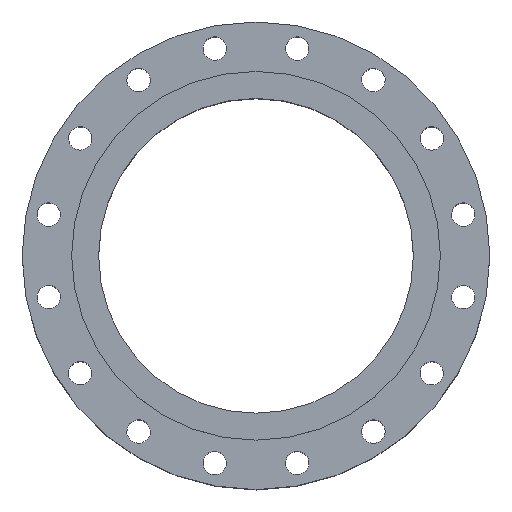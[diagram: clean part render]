
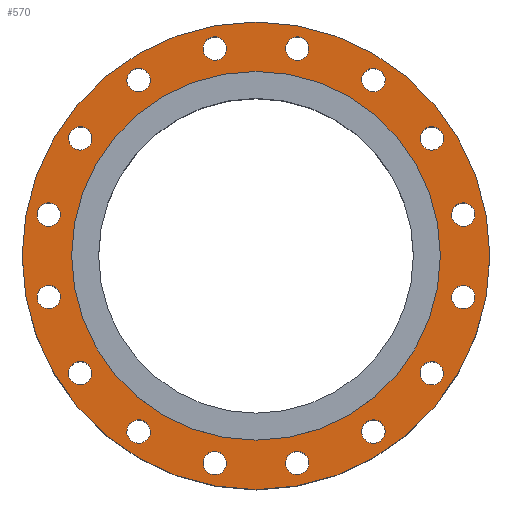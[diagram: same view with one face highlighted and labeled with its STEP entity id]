
A CAD part, top view. The second image highlights one B-rep face of the part: STEP entity #570.
In plain terms, the highlighted planar face has unit normal (0, 0, 1).
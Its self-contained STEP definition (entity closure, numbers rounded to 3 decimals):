
#570=ADVANCED_FACE('',(#1227,#1229,#1231,#1233,#1235,#1237,#1239,#1241,#1243,#1245,
#1247,#1249,#1251,#1253,#1255,#1257,#1259,#1261),#1263,.T.);
#1227=FACE_BOUND('',#1228,.T.);
#1228=EDGE_LOOP('',(#1588));
#1229=FACE_BOUND('',#1230,.T.);
#1230=EDGE_LOOP('',(#1589));
#1231=FACE_BOUND('',#1232,.T.);
#1232=EDGE_LOOP('',(#1590));
#1233=FACE_BOUND('',#1234,.T.);
#1234=EDGE_LOOP('',(#1591));
#1235=FACE_BOUND('',#1236,.T.);
#1236=EDGE_LOOP('',(#1592));
#1237=FACE_BOUND('',#1238,.T.);
#1238=EDGE_LOOP('',(#1593));
#1239=FACE_BOUND('',#1240,.T.);
#1240=EDGE_LOOP('',(#1594));
#1241=FACE_BOUND('',#1242,.T.);
#1242=EDGE_LOOP('',(#1595));
#1243=FACE_BOUND('',#1244,.T.);
#1244=EDGE_LOOP('',(#1596));
#1245=FACE_BOUND('',#1246,.T.);
#1246=EDGE_LOOP('',(#1597));
#1247=FACE_BOUND('',#1248,.T.);
#1248=EDGE_LOOP('',(#1598));
#1249=FACE_BOUND('',#1250,.T.);
#1250=EDGE_LOOP('',(#1599));
#1251=FACE_BOUND('',#1252,.T.);
#1252=EDGE_LOOP('',(#1600));
#1253=FACE_BOUND('',#1254,.T.);
#1254=EDGE_LOOP('',(#1601));
#1255=FACE_BOUND('',#1256,.T.);
#1256=EDGE_LOOP('',(#1602));
#1257=FACE_BOUND('',#1258,.T.);
#1258=EDGE_LOOP('',(#1603));
#1259=FACE_BOUND('',#1260,.T.);
#1260=EDGE_LOOP('',(#1604));
#1261=FACE_BOUND('',#1262,.T.);
#1262=EDGE_LOOP('',(#1605));
#1263=PLANE('',#1264);
#1264=AXIS2_PLACEMENT_3D('',#1265,#1266,#1267);
#1265=CARTESIAN_POINT('',(0.,0.,117.5));
#1266=DIRECTION('',(0.,0.,1.));
#1267=DIRECTION('',(0.,1.,0.));
#1588=ORIENTED_EDGE('',*,*,#1724,.F.);
#1589=ORIENTED_EDGE('',*,*,#1725,.T.);
#1590=ORIENTED_EDGE('',*,*,#1726,.T.);
#1591=ORIENTED_EDGE('',*,*,#1727,.T.);
#1592=ORIENTED_EDGE('',*,*,#1728,.T.);
#1593=ORIENTED_EDGE('',*,*,#1729,.T.);
#1594=ORIENTED_EDGE('',*,*,#1730,.T.);
#1595=ORIENTED_EDGE('',*,*,#1731,.T.);
#1596=ORIENTED_EDGE('',*,*,#1732,.T.);
#1597=ORIENTED_EDGE('',*,*,#1733,.T.);
#1598=ORIENTED_EDGE('',*,*,#1734,.T.);
#1599=ORIENTED_EDGE('',*,*,#1735,.T.);
#1600=ORIENTED_EDGE('',*,*,#1736,.T.);
#1601=ORIENTED_EDGE('',*,*,#1737,.T.);
#1602=ORIENTED_EDGE('',*,*,#1738,.T.);
#1603=ORIENTED_EDGE('',*,*,#1739,.T.);
#1604=ORIENTED_EDGE('',*,*,#1758,.T.);
#1605=ORIENTED_EDGE('',*,*,#1740,.T.);
#1724=EDGE_CURVE('',#1918,#1918,#1919,.T.);
#1725=EDGE_CURVE('',#1920,#1920,#1921,.T.);
#1726=EDGE_CURVE('',#1922,#1922,#1923,.T.);
#1727=EDGE_CURVE('',#1924,#1924,#1925,.T.);
#1728=EDGE_CURVE('',#1926,#1926,#1927,.T.);
#1729=EDGE_CURVE('',#1928,#1928,#1929,.T.);
#1730=EDGE_CURVE('',#1930,#1930,#1931,.T.);
#1731=EDGE_CURVE('',#1932,#1932,#1933,.T.);
#1732=EDGE_CURVE('',#1934,#1934,#1935,.T.);
#1733=EDGE_CURVE('',#1936,#1936,#1937,.T.);
#1734=EDGE_CURVE('',#1938,#1938,#1939,.T.);
#1735=EDGE_CURVE('',#1940,#1940,#1941,.T.);
#1736=EDGE_CURVE('',#1942,#1942,#1943,.T.);
#1737=EDGE_CURVE('',#1944,#1944,#1945,.T.);
#1738=EDGE_CURVE('',#1946,#1946,#1947,.T.);
#1739=EDGE_CURVE('',#1948,#1948,#1949,.T.);
#1740=EDGE_CURVE('',#1950,#1950,#1951,.T.);
#1758=EDGE_CURVE('',#1986,#1986,#1987,.T.);
#1918=VERTEX_POINT('',#3349);
#1919=CIRCLE('',#3350,260.);
#1920=VERTEX_POINT('',#3354);
#1921=CIRCLE('',#3355,13.);
#1922=VERTEX_POINT('',#3359);
#1923=CIRCLE('',#3360,13.);
#1924=VERTEX_POINT('',#3364);
#1925=CIRCLE('',#3365,13.);
#1926=VERTEX_POINT('',#3369);
#1927=CIRCLE('',#3370,13.);
#1928=VERTEX_POINT('',#3374);
#1929=CIRCLE('',#3375,13.);
#1930=VERTEX_POINT('',#3379);
#1931=CIRCLE('',#3380,13.);
#1932=VERTEX_POINT('',#3384);
#1933=CIRCLE('',#3385,13.);
#1934=VERTEX_POINT('',#3389);
#1935=CIRCLE('',#3390,13.);
#1936=VERTEX_POINT('',#3394);
#1937=CIRCLE('',#3395,13.);
#1938=VERTEX_POINT('',#3399);
#1939=CIRCLE('',#3400,13.);
#1940=VERTEX_POINT('',#3404);
#1941=CIRCLE('',#3405,13.);
#1942=VERTEX_POINT('',#3409);
#1943=CIRCLE('',#3410,13.);
#1944=VERTEX_POINT('',#3414);
#1945=CIRCLE('',#3415,13.);
#1946=VERTEX_POINT('',#3419);
#1947=CIRCLE('',#3420,13.);
#1948=VERTEX_POINT('',#3424);
#1949=CIRCLE('',#3425,13.);
#1950=VERTEX_POINT('',#3429);
#1951=CIRCLE('',#3430,13.);
#1986=VERTEX_POINT('',#3519);
#1987=CIRCLE('',#3520,205.);
#3349=CARTESIAN_POINT('',(0.,260.,117.5));
#3350=AXIS2_PLACEMENT_3D('',#3351,#3352,#3353);
#3351=CARTESIAN_POINT('',(0.,0.,117.5));
#3352=DIRECTION('',(0.,0.,-1.));
#3353=DIRECTION('',(0.,1.,0.));
#3354=CARTESIAN_POINT('',(118.549,200.37,117.5));
#3355=AXIS2_PLACEMENT_3D('',#3356,#3357,#3358);
#3356=CARTESIAN_POINT('',(130.559,195.395,117.5));
#3357=DIRECTION('',(0.,0.,-1.));
#3358=DIRECTION('',(-0.924,0.383,0.));
#3359=CARTESIAN_POINT('',(186.203,139.751,117.5));
#3360=AXIS2_PLACEMENT_3D('',#3361,#3362,#3363);
#3361=CARTESIAN_POINT('',(195.395,130.559,117.5));
#3362=DIRECTION('',(0.,0.,-1.));
#3363=DIRECTION('',(-0.707,0.707,0.));
#3364=CARTESIAN_POINT('',(225.51,57.857,117.5));
#3365=AXIS2_PLACEMENT_3D('',#3366,#3367,#3368);
#3366=CARTESIAN_POINT('',(230.485,45.846,117.5));
#3367=DIRECTION('',(0.,0.,-1.));
#3368=DIRECTION('',(-0.383,0.924,0.));
#3369=CARTESIAN_POINT('',(230.485,-32.846,117.5));
#3370=AXIS2_PLACEMENT_3D('',#3371,#3372,#3373);
#3371=CARTESIAN_POINT('',(230.485,-45.846,117.5));
#3372=DIRECTION('',(0.,0.,-1.));
#3373=DIRECTION('',(0.,1.,0.));
#3374=CARTESIAN_POINT('',(200.37,-118.549,117.5));
#3375=AXIS2_PLACEMENT_3D('',#3376,#3377,#3378);
#3376=CARTESIAN_POINT('',(195.395,-130.559,117.5));
#3377=DIRECTION('',(0.,0.,-1.));
#3378=DIRECTION('',(0.383,0.924,0.));
#3379=CARTESIAN_POINT('',(139.751,-186.203,117.5));
#3380=AXIS2_PLACEMENT_3D('',#3381,#3382,#3383);
#3381=CARTESIAN_POINT('',(130.559,-195.395,117.5));
#3382=DIRECTION('',(0.,0.,-1.));
#3383=DIRECTION('',(0.707,0.707,0.));
#3384=CARTESIAN_POINT('',(57.857,-225.51,117.5));
#3385=AXIS2_PLACEMENT_3D('',#3386,#3387,#3388);
#3386=CARTESIAN_POINT('',(45.846,-230.485,117.5));
#3387=DIRECTION('',(0.,0.,-1.));
#3388=DIRECTION('',(0.924,0.383,0.));
#3389=CARTESIAN_POINT('',(-32.846,-230.485,117.5));
#3390=AXIS2_PLACEMENT_3D('',#3391,#3392,#3393);
#3391=CARTESIAN_POINT('',(-45.846,-230.485,117.5));
#3392=DIRECTION('',(0.,0.,-1.));
#3393=DIRECTION('',(1.,0.,0.));
#3394=CARTESIAN_POINT('',(-118.549,-200.37,117.5));
#3395=AXIS2_PLACEMENT_3D('',#3396,#3397,#3398);
#3396=CARTESIAN_POINT('',(-130.559,-195.395,117.5));
#3397=DIRECTION('',(0.,0.,-1.));
#3398=DIRECTION('',(0.924,-0.383,0.));
#3399=CARTESIAN_POINT('',(-186.203,-139.751,117.5));
#3400=AXIS2_PLACEMENT_3D('',#3401,#3402,#3403);
#3401=CARTESIAN_POINT('',(-195.395,-130.559,117.5));
#3402=DIRECTION('',(0.,0.,-1.));
#3403=DIRECTION('',(0.707,-0.707,0.));
#3404=CARTESIAN_POINT('',(-225.51,-57.857,117.5));
#3405=AXIS2_PLACEMENT_3D('',#3406,#3407,#3408);
#3406=CARTESIAN_POINT('',(-230.485,-45.846,117.5));
#3407=DIRECTION('',(0.,0.,-1.));
#3408=DIRECTION('',(0.383,-0.924,0.));
#3409=CARTESIAN_POINT('',(-230.485,32.846,117.5));
#3410=AXIS2_PLACEMENT_3D('',#3411,#3412,#3413);
#3411=CARTESIAN_POINT('',(-230.485,45.846,117.5));
#3412=DIRECTION('',(0.,0.,-1.));
#3413=DIRECTION('',(0.,-1.,0.));
#3414=CARTESIAN_POINT('',(-200.37,118.549,117.5));
#3415=AXIS2_PLACEMENT_3D('',#3416,#3417,#3418);
#3416=CARTESIAN_POINT('',(-195.395,130.559,117.5));
#3417=DIRECTION('',(0.,0.,-1.));
#3418=DIRECTION('',(-0.383,-0.924,0.));
#3419=CARTESIAN_POINT('',(-139.751,186.203,117.5));
#3420=AXIS2_PLACEMENT_3D('',#3421,#3422,#3423);
#3421=CARTESIAN_POINT('',(-130.559,195.395,117.5));
#3422=DIRECTION('',(0.,0.,-1.));
#3423=DIRECTION('',(-0.707,-0.707,0.));
#3424=CARTESIAN_POINT('',(-57.857,225.51,117.5));
#3425=AXIS2_PLACEMENT_3D('',#3426,#3427,#3428);
#3426=CARTESIAN_POINT('',(-45.846,230.485,117.5));
#3427=DIRECTION('',(0.,0.,-1.));
#3428=DIRECTION('',(-0.924,-0.383,0.));
#3429=CARTESIAN_POINT('',(32.846,230.485,117.5));
#3430=AXIS2_PLACEMENT_3D('',#3431,#3432,#3433);
#3431=CARTESIAN_POINT('',(45.846,230.485,117.5));
#3432=DIRECTION('',(0.,0.,-1.));
#3433=DIRECTION('',(-1.,0.,0.));
#3519=CARTESIAN_POINT('',(0.,205.,117.5));
#3520=AXIS2_PLACEMENT_3D('',#3521,#3522,#3523);
#3521=CARTESIAN_POINT('',(0.,0.,117.5));
#3522=DIRECTION('',(0.,0.,-1.));
#3523=DIRECTION('',(0.,1.,0.));
